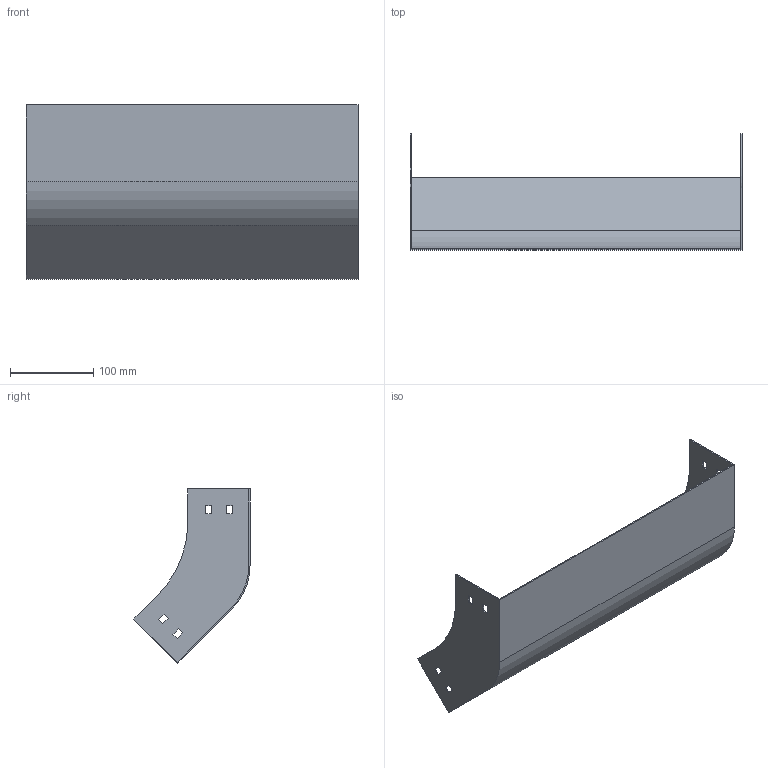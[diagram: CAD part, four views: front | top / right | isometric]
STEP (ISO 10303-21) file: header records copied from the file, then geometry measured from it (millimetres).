
FILE_DESCRIPTION (( 'STEP AP214' ), '1' );
FILE_NAME ('S4_407.step', '2025-07-16T09:27:01', ( '' ), ( '' ), 'SwSTEP 2.0', 'SolidWorks 2023', '' );
FILE_SCHEMA (( 'AUTOMOTIVE_DESIGN' ));
Length unit declared in the file: millimetre
Products named in the file (1): S4_407
Bounding box: 400 x 139.9 x 209.71 mm (x, y, z)
Volume: 192127.9 mm3; surface area: 258755.8 mm2
Topology: 1 solids, 1 shells, 50 faces, 144 edges, 96 vertices
Faces by surface type: plane 46, cylinder 4
Entity records: 1671 total; most frequent: CARTESIAN_POINT 291, ORIENTED_EDGE 288, DIRECTION 254, EDGE_CURVE 144, LINE 136, VECTOR 136, VERTEX_POINT 96, EDGE_LOOP 66
